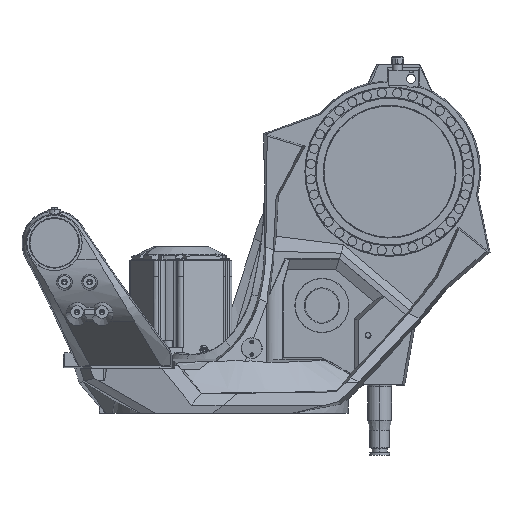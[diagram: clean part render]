
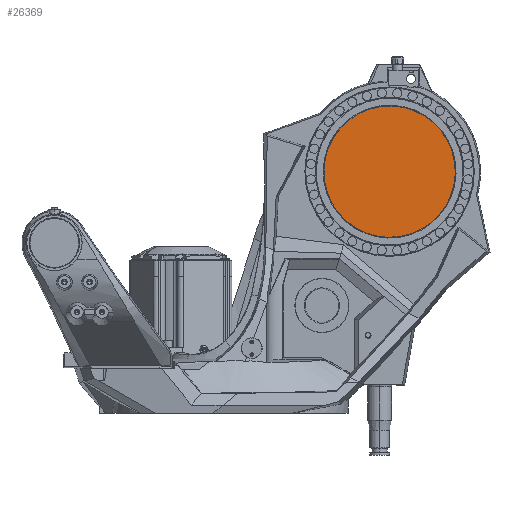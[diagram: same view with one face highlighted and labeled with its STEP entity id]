
A CAD part, front view. The second image highlights one B-rep face of the part: STEP entity #26369.
In plain terms, the highlighted planar face has unit normal (0, -1, 0).
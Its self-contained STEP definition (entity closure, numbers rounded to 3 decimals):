
#5037 = CARTESIAN_POINT ( 'NONE',  ( 320., -140., 780. ) ) ;
#5265 = CARTESIAN_POINT ( 'NONE',  ( 222.16, -140., 867.111 ) ) ;
#9602 = EDGE_LOOP ( 'NONE', ( #70130, #75783 ) ) ;
#11870 = AXIS2_PLACEMENT_3D ( 'NONE', #5037, #60965, #47954 ) ;
#16354 = CIRCLE ( 'NONE', #11870, 131. ) ;
#25503 = AXIS2_PLACEMENT_3D ( 'NONE', #38044, #87400, #64617 ) ;
#26369 = ADVANCED_FACE ( 'NONE', ( #48843 ), #42308, .F. ) ;
#30927 = EDGE_CURVE ( 'NONE', #59511, #53304, #16354, .T. ) ;
#38044 = CARTESIAN_POINT ( 'NONE',  ( 407.111, -140., 877.84 ) ) ;
#42308 = PLANE ( 'NONE',  #25503 ) ;
#47954 = DIRECTION ( 'NONE',  ( 0.747, 0., -0.665 ) ) ;
#48843 = FACE_OUTER_BOUND ( 'NONE', #9602, .T. ) ;
#53304 = VERTEX_POINT ( 'NONE', #62915 ) ;
#59511 = VERTEX_POINT ( 'NONE', #5265 ) ;
#60965 = DIRECTION ( 'NONE',  ( 0., -1., 0. ) ) ;
#62235 = AXIS2_PLACEMENT_3D ( 'NONE', #63982, #76590, #83571 ) ;
#62915 = CARTESIAN_POINT ( 'NONE',  ( 417.84, -140., 692.889 ) ) ;
#63982 = CARTESIAN_POINT ( 'NONE',  ( 320., -140., 780. ) ) ;
#64617 = DIRECTION ( 'NONE',  ( -0.747, 0., 0.665 ) ) ;
#68603 = EDGE_CURVE ( 'NONE', #53304, #59511, #84576, .T. ) ;
#70130 = ORIENTED_EDGE ( 'NONE', *, *, #30927, .T. ) ;
#75783 = ORIENTED_EDGE ( 'NONE', *, *, #68603, .T. ) ;
#76590 = DIRECTION ( 'NONE',  ( 0., -1., 0. ) ) ;
#83571 = DIRECTION ( 'NONE',  ( 0.747, 0., -0.665 ) ) ;
#84576 = CIRCLE ( 'NONE', #62235, 131. ) ;
#87400 = DIRECTION ( 'NONE',  ( 0., 1., 0. ) ) ;
